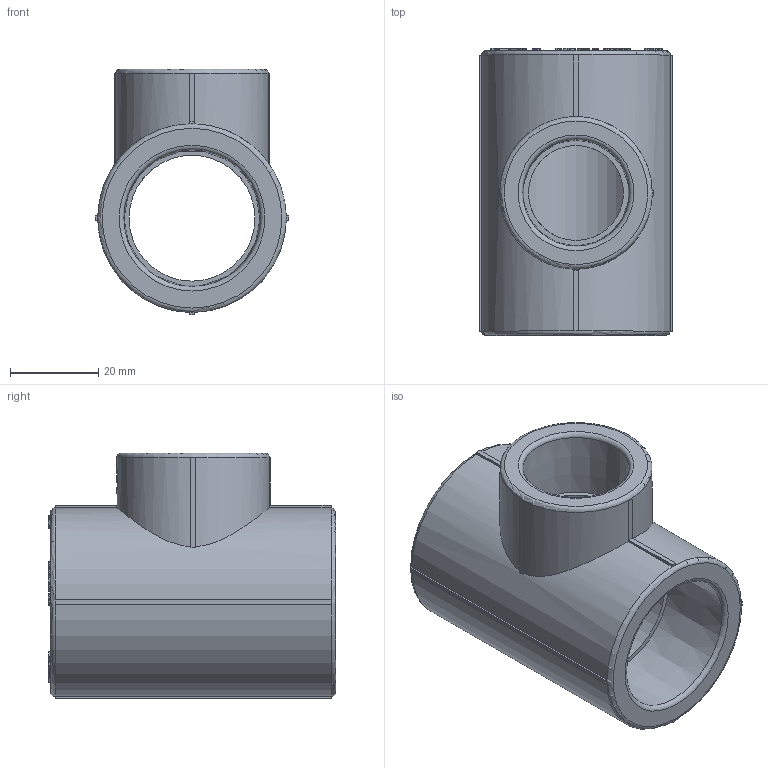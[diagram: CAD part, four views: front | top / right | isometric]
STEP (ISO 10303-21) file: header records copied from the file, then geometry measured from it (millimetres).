
FILE_DESCRIPTION(('STEP AP203'), '1');
FILE_NAME('ÂÐ.752241.058 - VTp.735.0.032025032', '', ('UNSPECIFIED'), ('UNSPECIFIED'), 'C3D Converter', 'C3D Toolkit', '');
FILE_SCHEMA(('CONFIG_CONTROL_DESIGN'));
Length unit declared in the file: millimetre
Products named in the file (1): ВР.752241.058
Bounding box: 43.8 x 65 x 55.65 mm (x, y, z)
Volume: 51724.9 mm3; surface area: 18872.8 mm2
Topology: 1 solids, 1 shells, 1129 faces, 3175 edges, 2108 vertices
Faces by surface type: extrusion 672, plane 413, cylinder 35, torus 6, cone 3
Full cylindrical faces by diameter (mm): 6 x1, 21.5 x1, 28.5 x1
Entity records: 41593 total; most frequent: CARTESIAN_POINT 15932, ORIENTED_EDGE 6326, EDGE_CURVE 3163, DIRECTION 3155, VECTOR 2149, VERTEX_POINT 2108, B_SPLINE_CURVE_WITH_KNOTS 2023, LINE 1477
